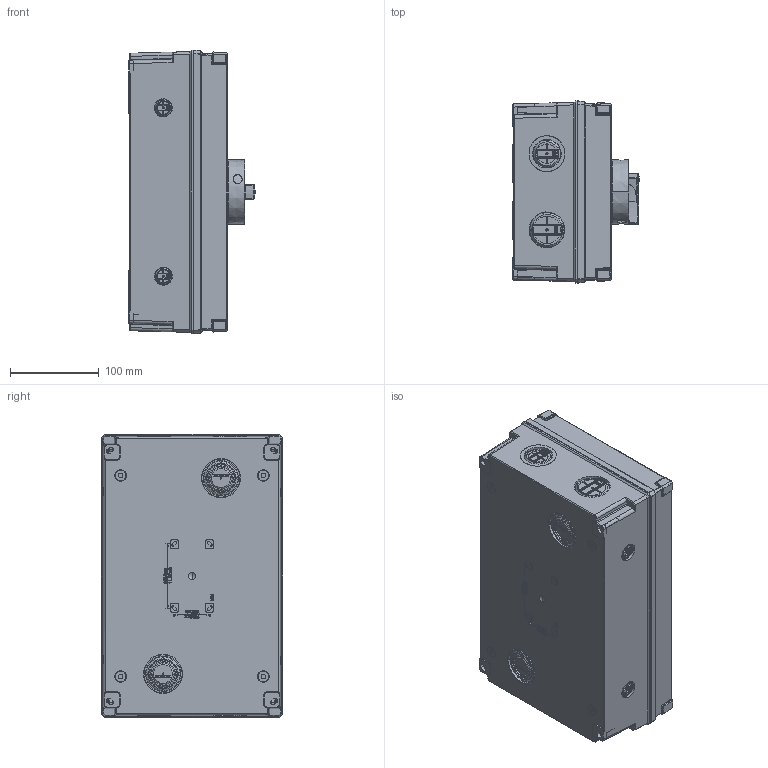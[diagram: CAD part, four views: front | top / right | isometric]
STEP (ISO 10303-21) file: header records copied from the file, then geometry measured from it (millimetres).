
FILE_DESCRIPTION (( 'STEP AP203' ), '1' );
FILE_NAME ('NF2-125BO.STEP', '2024-03-01T06:27:22', ( 'wzjh' ), ( '' ), 'SwSTEP 2.0', 'SolidWorks 2023', '' );
FILE_SCHEMA (( 'CONFIG_CONTROL_DESIGN' ));
Products named in the file (1): NF2-125BO
Bounding box: 142.25 x 205 x 320 mm (x, y, z)
Volume: 6877803.6 mm3; surface area: 321844.8 mm2
Topology: 2 solids, 35 shells, 4107 faces, 10899 edges, 6967 vertices
Faces by surface type: plane 2137, bspline 752, cylinder 712, cone 280, torus 149, sphere 77
Entity records: 166727 total; most frequent: CARTESIAN_POINT 72494, ORIENTED_EDGE 21672, DIRECTION 16453, EDGE_CURVE 10836, VERTEX_POINT 6965, VECTOR 5887, LINE 5887, AXIS2_PLACEMENT_3D 5283
